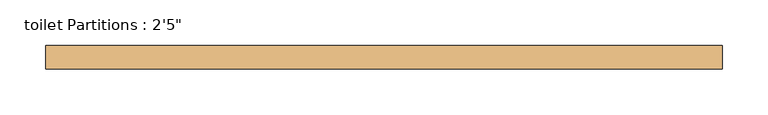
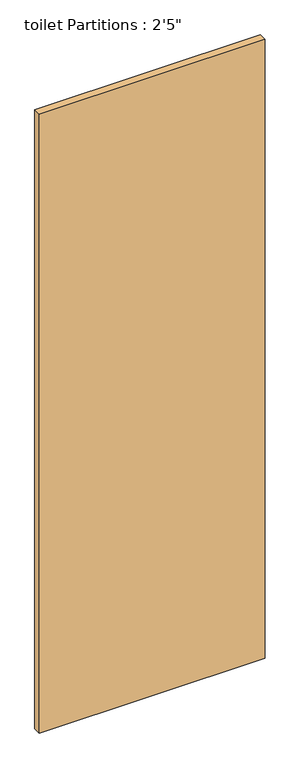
"""IFC4 building model written with IfcOpenShell, lengths in millimetres: door geometry."""

from ifc_helpers import new_model, si_unit, origin, origin_with_axes, place, context, project, spatial, polyline, outline, extrude, source, transform, mapped, element, save


def door_243abaaa(model_context):
    return source(origin(), model_context, "Body", "SweptSolid", [
        extrude(outline(polyline([(368.3, 0.0), (368.3, -25.4), (-368.3, -25.4), (-368.3, 0.0), (368.3, 0.0)])), origin_with_axes(), (0.0, 0.0, 1.0), 2133.6),
    ])


if __name__ == "__main__":
    model = new_model("IFC4")
    model_context = context("Model", 3, world=origin())
    ifc_project = project(units=[si_unit("LENGTHUNIT", "METRE", prefix="MILLI")], contexts=[model_context])
    site = spatial("IfcSite", under=ifc_project)
    building = spatial("IfcBuilding", under=site)
    placement = place(None, origin())
    door_shape = door_243abaaa(model_context)
    element("IfcDoor", 1, ObjectType="toilet Partitions : 2'5\"", at=placement, inside=building, context=model_context, shape_type="MappedRepresentation", body=[
        mapped(door_shape, transform((0.0, 0.0, 0.0), x_axis=(1.0, 0.0, 0.0), y_axis=(0.0, 1.0, 0.0), z_axis=(0.0, 0.0, 1.0))),
    ])
    save(model, "model.ifc")
